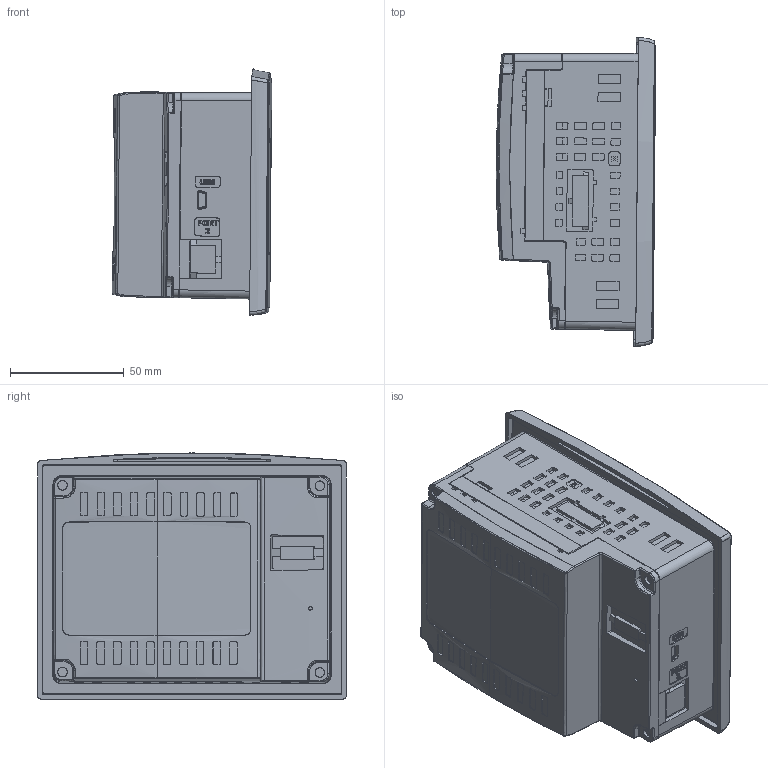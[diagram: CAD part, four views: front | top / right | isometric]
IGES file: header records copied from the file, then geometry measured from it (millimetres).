
Start section: SolidWorks IGES file using analytic representation for surfaces
Global section: file name: D:\Project\Samba\Samba 4.3\CAD Files\IGES\SM43.IGS; native system: SolidWorks 2011; preprocessor: SolidWorks 2011; author: baraki; date: 141021.145323; units: millimetre
Bounding box: 70.22 x 136 x 108.39 mm (x, y, z)
Surface area: 72266.4 mm2 (no closed solid volume)
Topology: 0 solids, 0 shells, 1749 faces, 14023 edges, 14012 vertices
Faces by surface type: bspline 1188, revolution 561
